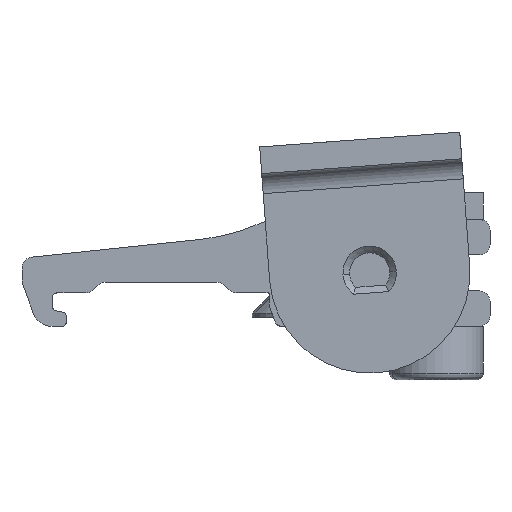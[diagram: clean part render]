
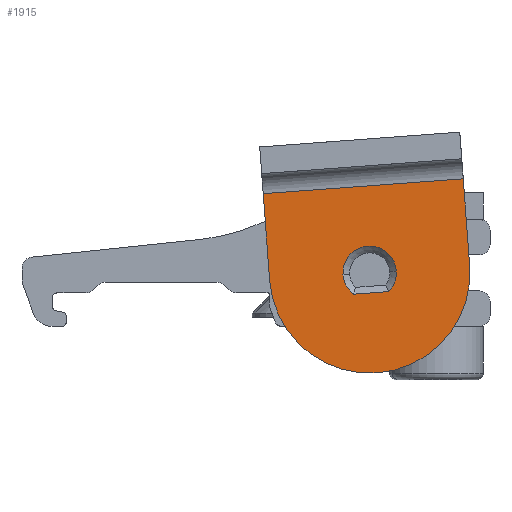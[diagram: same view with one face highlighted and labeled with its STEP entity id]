
A CAD part, front view. The second image highlights one B-rep face of the part: STEP entity #1915.
In plain terms, the highlighted planar face has unit normal (0, -1, 0).
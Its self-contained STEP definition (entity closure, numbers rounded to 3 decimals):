
#24 = VECTOR ( 'NONE', #3669, 1000. ) ;
#105 = AXIS2_PLACEMENT_3D ( 'NONE', #4013, #264, #4641 ) ;
#164 = VERTEX_POINT ( 'NONE', #586 ) ;
#264 = DIRECTION ( 'NONE',  ( 0., 1., 0. ) ) ;
#269 = ORIENTED_EDGE ( 'NONE', *, *, #1238, .T. ) ;
#329 = CARTESIAN_POINT ( 'NONE',  ( 32.357, 2.252, 5.938 ) ) ;
#350 = CARTESIAN_POINT ( 'NONE',  ( 26.789, 2.252, -2.498 ) ) ;
#357 = DIRECTION ( 'NONE',  ( -0.997, 0., -0.074 ) ) ;
#586 = CARTESIAN_POINT ( 'NONE',  ( 27.354, 2.252, -0.952 ) ) ;
#682 = EDGE_CURVE ( 'NONE', #2853, #6226, #3591, .T. ) ;
#785 = DIRECTION ( 'NONE',  ( 0., 1., 0. ) ) ;
#818 = CARTESIAN_POINT ( 'NONE',  ( 17.398, 2.252, 4.826 ) ) ;
#934 = EDGE_LOOP ( 'NONE', ( #1780, #1269, #3016, #7858 ) ) ;
#1238 = EDGE_CURVE ( 'NONE', #2786, #2853, #2474, .T. ) ;
#1269 = ORIENTED_EDGE ( 'NONE', *, *, #2221, .T. ) ;
#1444 = DIRECTION ( 'NONE',  ( 0.997, 0., 0.074 ) ) ;
#1503 = VECTOR ( 'NONE', #1444, 1000. ) ;
#1590 = CARTESIAN_POINT ( 'NONE',  ( 25.359, 2.252, -1.1 ) ) ;
#1780 = ORIENTED_EDGE ( 'NONE', *, *, #4451, .T. ) ;
#1793 = CARTESIAN_POINT ( 'NONE',  ( 17.398, 2.252, 4.826 ) ) ;
#1915 = ADVANCED_FACE ( 'NONE', ( #7285, #7455 ), #5847, .T. ) ;
#2214 = DIRECTION ( 'NONE',  ( -0.997, 0., -0.074 ) ) ;
#2221 = EDGE_CURVE ( 'NONE', #7189, #164, #4044, .T. ) ;
#2231 = CARTESIAN_POINT ( 'NONE',  ( 24.151, 2.252, -2.694 ) ) ;
#2246 = EDGE_LOOP ( 'NONE', ( #5694, #4383, #3123, #269 ) ) ;
#2288 = CIRCLE ( 'NONE', #6363, 2. ) ;
#2474 = CIRCLE ( 'NONE', #4912, 7.5 ) ;
#2584 = DIRECTION ( 'NONE',  ( 0., -1., 0. ) ) ;
#2786 = VERTEX_POINT ( 'NONE', #6000 ) ;
#2853 = VERTEX_POINT ( 'NONE', #4277 ) ;
#2950 = CARTESIAN_POINT ( 'NONE',  ( 17.287, 2.252, 6.322 ) ) ;
#3016 = ORIENTED_EDGE ( 'NONE', *, *, #7873, .T. ) ;
#3123 = ORIENTED_EDGE ( 'NONE', *, *, #6433, .T. ) ;
#3175 = CARTESIAN_POINT ( 'NONE',  ( 25.359, 2.252, -1.1 ) ) ;
#3208 = CIRCLE ( 'NONE', #105, 2. ) ;
#3234 = DIRECTION ( 'NONE',  ( -0.997, 0., -0.074 ) ) ;
#3591 = LINE ( 'NONE', #3650, #24 ) ;
#3650 = CARTESIAN_POINT ( 'NONE',  ( 32.246, 2.252, 7.434 ) ) ;
#3669 = DIRECTION ( 'NONE',  ( -0.074, 0., 0.997 ) ) ;
#3944 = AXIS2_PLACEMENT_3D ( 'NONE', #1590, #5862, #2214 ) ;
#4013 = CARTESIAN_POINT ( 'NONE',  ( 25.359, 2.252, -1.1 ) ) ;
#4044 = CIRCLE ( 'NONE', #3944, 2. ) ;
#4116 = DIRECTION ( 'NONE',  ( 0., -1., 0. ) ) ;
#4277 = CARTESIAN_POINT ( 'NONE',  ( 32.838, 2.252, -0.544 ) ) ;
#4383 = ORIENTED_EDGE ( 'NONE', *, *, #6023, .F. ) ;
#4451 = EDGE_CURVE ( 'NONE', #6382, #7189, #2288, .T. ) ;
#4529 = CARTESIAN_POINT ( 'NONE',  ( 25.359, 2.252, -1.1 ) ) ;
#4615 = VECTOR ( 'NONE', #7114, 1000. ) ;
#4641 = DIRECTION ( 'NONE',  ( -0.997, 0., -0.074 ) ) ;
#4912 = AXIS2_PLACEMENT_3D ( 'NONE', #3175, #2584, #3234 ) ;
#5137 = DIRECTION ( 'NONE',  ( -0.997, 0., -0.074 ) ) ;
#5207 = CARTESIAN_POINT ( 'NONE',  ( 23.365, 2.252, -1.248 ) ) ;
#5221 = DIRECTION ( 'NONE',  ( -0.997, 0., -0.074 ) ) ;
#5694 = ORIENTED_EDGE ( 'NONE', *, *, #682, .T. ) ;
#5767 = CARTESIAN_POINT ( 'NONE',  ( 24.355, 2.252, -2.679 ) ) ;
#5768 = VERTEX_POINT ( 'NONE', #1793 ) ;
#5847 = PLANE ( 'NONE',  #7600 ) ;
#5862 = DIRECTION ( 'NONE',  ( 0., 1., 0. ) ) ;
#6000 = CARTESIAN_POINT ( 'NONE',  ( 17.88, 2.252, -1.656 ) ) ;
#6023 = EDGE_CURVE ( 'NONE', #5768, #6226, #6367, .T. ) ;
#6094 = EDGE_CURVE ( 'NONE', #6882, #6382, #7780, .T. ) ;
#6164 = LINE ( 'NONE', #2950, #4615 ) ;
#6226 = VERTEX_POINT ( 'NONE', #329 ) ;
#6363 = AXIS2_PLACEMENT_3D ( 'NONE', #4529, #785, #5137 ) ;
#6367 = LINE ( 'NONE', #818, #1503 ) ;
#6382 = VERTEX_POINT ( 'NONE', #2231 ) ;
#6433 = EDGE_CURVE ( 'NONE', #5768, #2786, #6164, .T. ) ;
#6882 = VERTEX_POINT ( 'NONE', #350 ) ;
#7114 = DIRECTION ( 'NONE',  ( 0.074, 0., -0.997 ) ) ;
#7189 = VERTEX_POINT ( 'NONE', #5207 ) ;
#7285 = FACE_BOUND ( 'NONE', #934, .T. ) ;
#7455 = FACE_OUTER_BOUND ( 'NONE', #2246, .T. ) ;
#7588 = VECTOR ( 'NONE', #5221, 1000. ) ;
#7600 = AXIS2_PLACEMENT_3D ( 'NONE', #7678, #4116, #357 ) ;
#7678 = CARTESIAN_POINT ( 'NONE',  ( 25.359, 2.252, -1.1 ) ) ;
#7780 = LINE ( 'NONE', #5767, #7588 ) ;
#7858 = ORIENTED_EDGE ( 'NONE', *, *, #6094, .T. ) ;
#7873 = EDGE_CURVE ( 'NONE', #164, #6882, #3208, .T. ) ;
